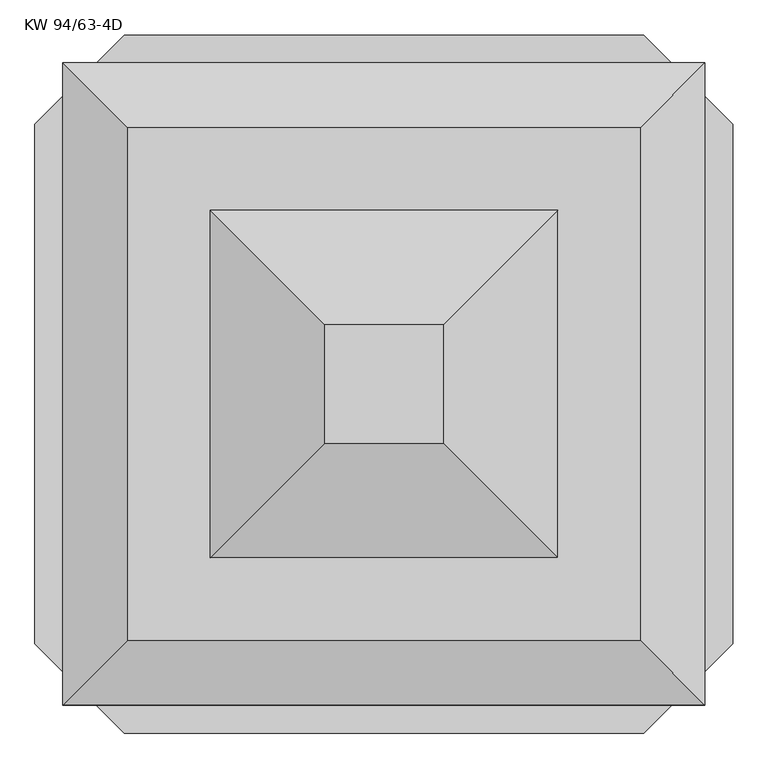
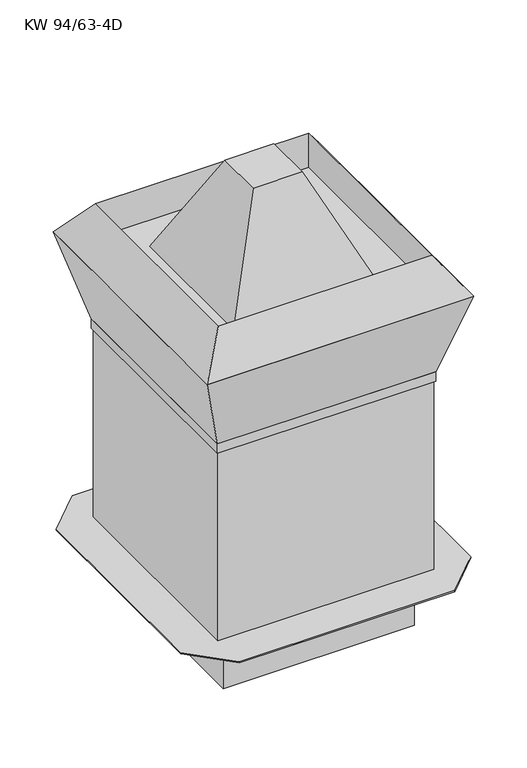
"""IFC4 building model written with IfcOpenShell, lengths in millimetres: proxy geometry, KORF_Вентилятор_Вытяжной_Крышный_KW : KW 94/63-4D."""

from ifc_helpers import new_model, si_unit, frame, origin, place, context, project, spatial, polyline, outline, extrude, faceted_brep, source, transform, mapped, element, save


def kw_94_63_4d_f0cd2b53(model_context):
    return source(origin(), model_context, "Body", "SolidModel", [
        faceted_brep([(412.5, 435.0, -1.0), (412.5, 412.5, -1.0), (-412.5, 412.5, -1.0), (-412.5, 435.0, -1.0), (412.5, -412.5, -1.0), (412.5, -435.0, -1.0), (-412.5, -435.0, -1.0), (-412.5, -412.5, -1.0), (-412.5, 435.0, 0.0), (412.5, 435.0, 0.0), (-412.5, 412.5, 0.0), (412.5, 412.5, 0.0), (-412.5, -435.0, 0.0), (-412.5, -412.5, 0.0), (412.5, -435.0, 0.0), (412.5, -412.5, 0.0), (-436.5, 412.5, 0.0), (-436.5, -412.5, 0.0), (435.0, -412.5, 0.0), (435.0, 412.5, 0.0), (411.5, 411.5, 0.0), (411.5, -411.5, 0.0), (-411.5, -411.5, 0.0), (-411.5, 411.5, 0.0), (-436.5, 412.5, -1.0), (-436.5, -412.5, -1.0), (435.0, -412.5, -1.0), (435.0, 412.5, -1.0), (412.5, -412.5, -264.0), (-412.5, -412.5, -264.0), (-412.5, 412.5, -264.0), (412.5, 412.5, -264.0), (411.5, 411.5, -264.0), (-411.5, 411.5, -264.0), (-411.5, -411.5, -264.0), (411.5, -411.5, -264.0)], [[[0, 1, 2, 3]], [[4, 5, 6, 7]], [[0, 3, 8, 9]], [[3, 2, 10, 8]], [[1, 0, 9, 11]], [[7, 6, 12, 13]], [[6, 5, 14, 12]], [[5, 4, 15, 14]], [[16, 17, 13, 12, 14, 15, 18, 19, 11, 9, 8, 10], [20, 21, 22, 23]], [[24, 2, 7, 25]], [[26, 4, 1, 27]], [[17, 16, 24, 25]], [[13, 17, 25, 7]], [[16, 10, 2, 24]], [[19, 18, 26, 27]], [[11, 19, 27, 1]], [[18, 15, 4, 26]], [[28, 29, 30, 31], [32, 33, 34, 35]], [[28, 31, 1, 4]], [[31, 30, 2, 1]], [[30, 29, 7, 2]], [[29, 28, 4, 7]], [[21, 20, 32, 35]], [[22, 21, 35, 34]], [[23, 22, 34, 33]], [[20, 23, 33, 32]]]),
        faceted_brep([(465.0, 465.0, 907.0), (-465.0, 465.0, 907.0), (-465.0, -465.0, 907.0), (465.0, -465.0, 907.0), (465.0, 625.0, 0.0), (625.0, 465.0, 0.0), (625.0, -465.0, 0.0), (465.0, -625.0, 0.0), (-465.0, -625.0, 0.0), (-625.0, -465.0, 0.0), (-625.0, 465.0, 0.0), (-465.0, 625.0, 0.0), (465.0, 465.0, 5.0), (-465.0, 465.0, 5.0), (-465.0, -465.0, 5.0), (465.0, -465.0, 5.0), (465.0, 625.0, 5.0), (-465.0, 625.0, 5.0), (-625.0, 465.0, 5.0), (-625.0, -465.0, 5.0), (-465.0, -625.0, 5.0), (465.0, -625.0, 5.0), (625.0, -465.0, 5.0), (625.0, 465.0, 5.0)], [[[0, 1, 2, 3]], [[4, 5, 6, 7, 8, 9, 10, 11]], [[1, 0, 12, 13]], [[2, 1, 13, 14]], [[3, 2, 14, 15]], [[0, 3, 15, 12]], [[16, 17, 18, 19, 20, 21, 22, 23], [13, 12, 15, 14]], [[17, 16, 4, 11]], [[18, 17, 11, 10]], [[19, 18, 10, 9]], [[20, 19, 9, 8]], [[21, 20, 8, 7]], [[22, 21, 7, 6]], [[23, 22, 6, 5]], [[16, 23, 5, 4]]]),
        faceted_brep([(106.0, 106.0, 1724.0), (-106.0, 106.0, 1724.0), (-106.0, -106.0, 1724.0), (106.0, -106.0, 1724.0), (311.0, 311.0, 1277.5), (311.0, -311.0, 1277.5), (-311.0, -311.0, 1277.5), (-311.0, 311.0, 1277.5)], [[[0, 1, 2, 3]], [[4, 5, 6, 7]], [[4, 7, 1, 0]], [[7, 6, 2, 1]], [[6, 5, 3, 2]], [[5, 4, 0, 3]]]),
        faceted_brep([(575.0, 575.0, 1277.5), (575.0, -575.0, 1277.5), (-575.0, -575.0, 1277.5), (-575.0, 575.0, 1277.5), (460.0, 460.0, 1277.5), (-460.0, 460.0, 1277.5), (-460.0, -460.0, 1277.5), (460.0, -460.0, 1277.5), (-460.0, 460.0, 1434.0), (460.0, 460.0, 1434.0), (-460.0, -460.0, 1434.0), (460.0, -460.0, 1434.0)], [[[0, 1, 2, 3], [4, 5, 6, 7]], [[0, 3, 8, 9]], [[3, 2, 10, 8]], [[2, 1, 11, 10]], [[1, 0, 9, 11]], [[8, 5, 4, 9]], [[5, 8, 10, 6]], [[6, 10, 11, 7]], [[9, 4, 7, 11]]]),
        faceted_brep([(575.0, 575.0, 1277.5), (-575.0, 575.0, 1277.5), (-575.0, -575.0, 1277.5), (575.0, -575.0, 1277.5), (471.0, 471.0, 907.0), (471.0, -471.0, 907.0), (-471.0, -471.0, 907.0), (-471.0, 471.0, 907.0)], [[[0, 1, 2, 3]], [[4, 5, 6, 7]], [[4, 7, 1, 0]], [[7, 6, 2, 1]], [[6, 5, 3, 2]], [[5, 4, 0, 3]]]),
        extrude(outline(polyline([(471.0, 471.0), (471.0, -471.0), (-471.0, -471.0), (-471.0, 471.0), (471.0, 471.0)]), holes=[polyline([(468.0, 468.0), (-468.0, 468.0), (-468.0, -468.0), (468.0, -468.0), (468.0, 468.0)])]), frame((0.0, 0.0, 864.0), z_axis=(0.0, 0.0, 1.0), x_axis=(1.0, 0.0, 0.0)), (0.0, 0.0, 1.0), 43.0),
    ])


if __name__ == "__main__":
    model = new_model("IFC4")
    model_context = context("Model", 3, world=origin())
    ifc_project = project(units=[si_unit("LENGTHUNIT", "METRE", prefix="MILLI")], contexts=[model_context])
    site = spatial("IfcSite", under=ifc_project)
    building = spatial("IfcBuilding", under=site)
    placement = place(None, origin())
    kw_94_63_4d_shape = kw_94_63_4d_f0cd2b53(model_context)
    element("IfcBuildingElementProxy", 1, Name="KORF_Вентилятор_Вытяжной_Крышный_KW : KW 94/63-4D", ObjectType="KORF_Вентилятор_Вытяжной_Крышный_KW : KW 94/63-4D", at=placement, inside=building, context=model_context, shape_type="MappedRepresentation", body=[
        mapped(kw_94_63_4d_shape, transform((0.0, 0.0, 0.0), x_axis=(1.0, 0.0, 0.0), y_axis=(0.0, 1.0, 0.0), z_axis=(0.0, 0.0, 1.0))),
    ])
    save(model, "model.ifc")
